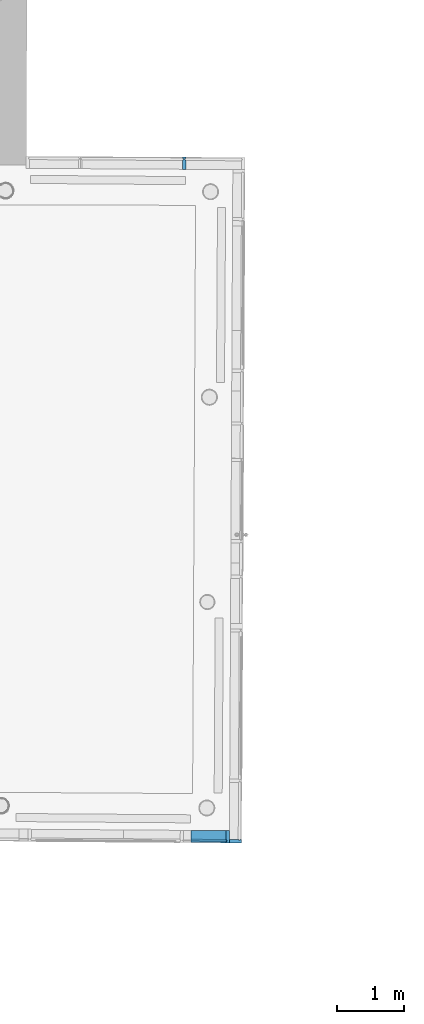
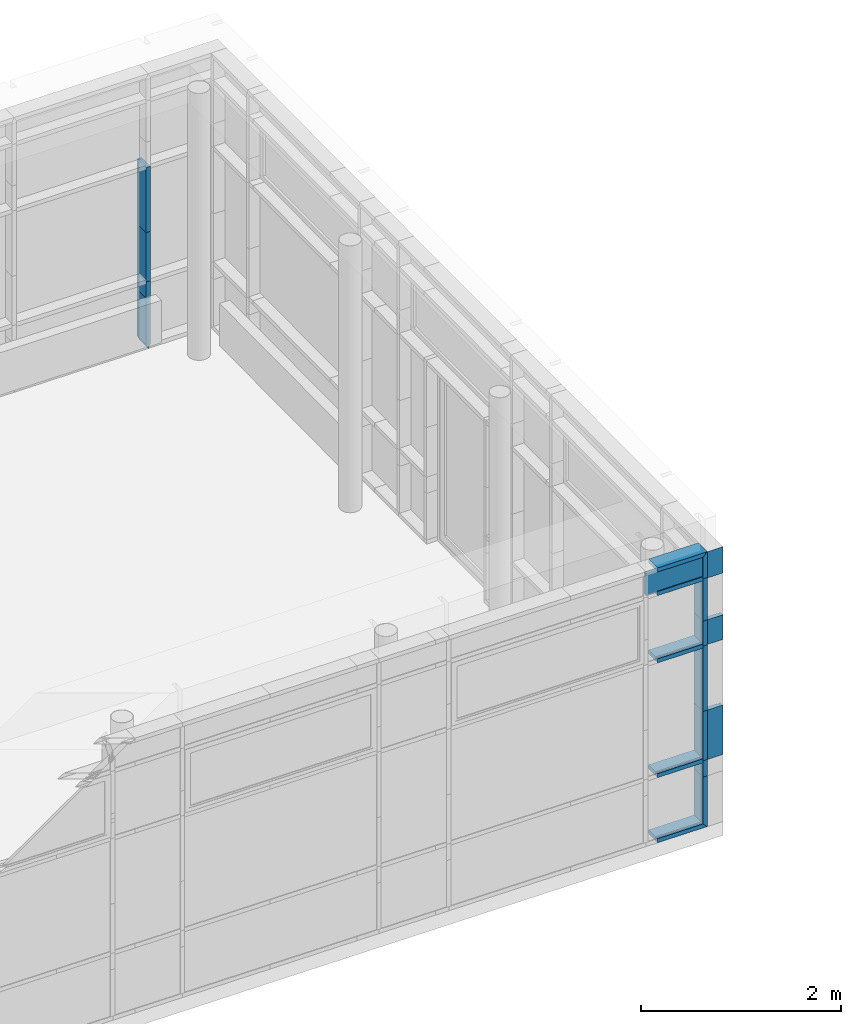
# One storey, part 177 of 196: 20 building element parts, 3 elements without a shape of their own.
"""IFC2X3 building model written with IfcOpenShell, lengths in metres."""

from ifc_helpers import new_model, entity, si_unit, converted_unit, derived_unit, money_unit, direction, frame, origin_with_axes, place, context, subcontext, project, spatial, faceted_brep, material, type_object, element, aggregate, save


model = new_model("IFC2X3")

# Units and contexts
model_context = context("Model", 3, precision=1e-05, world=origin_with_axes(), true_north=direction((0.0, 1.0)))
body_context = subcontext(model_context, "Body", "Model", "MODEL_VIEW")
ifc_project = project(units=[si_unit("LENGTHUNIT", "METRE"), si_unit("AREAUNIT", "SQUARE_METRE"), si_unit("VOLUMEUNIT", "CUBIC_METRE"), converted_unit("PLANEANGLEUNIT", "DEGREE", entity("IfcPlaneAngleMeasure", 0.0174532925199), si_unit("PLANEANGLEUNIT", "RADIAN"), dimensions=[0, 0, 0, 0, 0, 0, 0]), money_unit("EUR"), converted_unit("TIMEUNIT", "Year", entity("IfcTimeMeasure", 31556926.0), si_unit("TIMEUNIT", "SECOND"), dimensions=[0, 0, 1, 0, 0, 0, 0]), si_unit("MASSUNIT", "GRAM", prefix="KILO"), si_unit("THERMODYNAMICTEMPERATUREUNIT", "DEGREE_CELSIUS"), si_unit("LUMINOUSINTENSITYUNIT", "LUMEN"), si_unit("ENERGYUNIT", "JOULE", prefix="MEGA"), derived_unit("THERMALCONDUCTANCEUNIT", [(si_unit("POWERUNIT", "WATT"), 1), (si_unit("LENGTHUNIT", "METRE"), -1), (si_unit("THERMODYNAMICTEMPERATUREUNIT", "KELVIN"), -1)]), derived_unit("SPECIFICHEATCAPACITYUNIT", [(si_unit("ENERGYUNIT", "JOULE"), 1), (si_unit("MASSUNIT", "GRAM", prefix="KILO"), -1), (si_unit("THERMODYNAMICTEMPERATUREUNIT", "KELVIN"), -1)]), derived_unit("MASSDENSITYUNIT", [(si_unit("MASSUNIT", "GRAM", prefix="KILO"), 1), (si_unit("VOLUMEUNIT", "CUBIC_METRE"), -1)])], contexts=[model_context])

# Site, building, storey
site_placement = place(None, origin_with_axes())
site = spatial("IfcSite", under=ifc_project, at=site_placement, Name="Gelände", CompositionType="ELEMENT")
building_placement = place(site_placement, origin_with_axes())
building = spatial("IfcBuilding", under=site, at=building_placement, Name="Gebäude", CompositionType="ELEMENT")
storey_placement = place(building_placement, frame((0.0, 0.0, -3.0), z_axis=(0.0, 0.0, 1.0), x_axis=(1.0, 0.0, 0.0)))
storey = spatial("IfcBuildingStorey", under=building, at=storey_placement, Name="KELLERGESCHOSS", CompositionType="ELEMENT", Elevation=-3.0)

# Proxy, building element parts
building_element_proxy_type = type_object("IfcBuildingElementProxyType", Name="Fassadentyp", PredefinedType="NOTDEFINED")
proxy_1_placement = place(storey_placement, frame((2.54090824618, 35.7894672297, 0.610000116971), z_axis=(0.0, 0.0, 1.0), x_axis=(1.0, 0.0, 0.0)))
proxy_1 = element("IfcBuildingElementProxy", 1, at=proxy_1_placement, inside=storey, type_object=building_element_proxy_type, Name="Fassade-002")
ifc_material_1 = material(Name="45_Glas, Normalglas")
building_element_part_1_placement = place(proxy_1_placement, origin_with_axes())
building_element_part_1 = element("IfcBuildingElementPart", 2, at=building_element_part_1_placement, material=ifc_material_1, Name="45_Glas, Normalglas", context=body_context, shape_type="Brep", body=[
    faceted_brep([(6.42574014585, -0.0265612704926, 3.31499993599), (5.8892709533, -0.0226739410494, 3.31499993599), (5.88898111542, -0.0626728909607, 3.31499993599), (6.42545030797, -0.0665602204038, 3.31499993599), (6.42574014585, -0.0265612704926, 3.04649576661), (5.8892709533, -0.0226739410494, 3.04649576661), (5.76502929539, -0.021773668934, 3.04649576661), (5.76502929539, -0.021773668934, 3.31499993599), (5.7647394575, -0.0617726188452, 3.31499993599), (5.7647394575, -0.0617726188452, 3.04649576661), (5.88898111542, -0.0626728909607, 3.04649576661), (6.42545030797, -0.0665602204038, 3.04649576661)], [[[0, 1, 2, 3]], [[0, 4, 5, 6, 7, 1]], [[1, 7, 8, 2]], [[3, 2, 8, 9, 10, 11]], [[4, 0, 3, 11]], [[5, 4, 11, 10]], [[6, 5, 10, 9]], [[7, 6, 9, 8]]]),
])
ifc_material_2 = material(Name="53_Metall, Aluminium")
building_element_part_2_placement = place(proxy_1_placement, origin_with_axes())
building_element_part_2 = element("IfcBuildingElementPart", 3, at=building_element_part_2_placement, material=ifc_material_2, Name="53_Metall, Aluminium", context=body_context, shape_type="Brep", body=[
    faceted_brep([(6.4256676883, -0.0365610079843, 0.818463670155), (6.42552276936, -0.0565604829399, 0.818463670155), (6.41052316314, -0.0564517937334, 0.818463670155), (6.4103782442, -0.076451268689, 0.818463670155), (6.46037693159, -0.0768135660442, 0.818463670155), (6.46168120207, 0.103181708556, 0.818463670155), (6.41168251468, 0.103544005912, 0.818463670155), (6.41066808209, -0.0364523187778, 0.818463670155), (6.4256676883, -0.0365610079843, 0.619999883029), (6.42552276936, -0.0565604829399, 0.619999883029), (6.41052316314, -0.0564517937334, 0.619999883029), (6.4103782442, -0.076451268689, 0.619999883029), (6.46037693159, -0.0768135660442, 0.619999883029), (6.46168120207, 0.103181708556, 0.619999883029), (6.41168251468, 0.103544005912, 0.619999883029), (6.41066808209, -0.0364523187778, 0.619999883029)], [[[0, 1, 2, 3, 4, 5, 6, 7]], [[1, 0, 8, 9]], [[10, 2, 1, 9]], [[2, 10, 11, 3]], [[12, 4, 3, 11]], [[13, 5, 4, 12]], [[14, 6, 5, 13]], [[15, 7, 6, 14]], [[0, 7, 15, 8]], [[8, 15, 14, 13, 12, 11, 10, 9]]]),
])
building_element_part_3_placement = place(proxy_1_placement, origin_with_axes())
building_element_part_3 = element("IfcBuildingElementPart", 4, at=building_element_part_3_placement, material=ifc_material_2, Name="53_Metall, Aluminium", context=body_context, shape_type="Brep", body=[
    faceted_brep([(6.4256676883, -0.0365610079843, 2.21648768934), (6.42552276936, -0.0565604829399, 2.21648768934), (6.41052316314, -0.0564517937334, 2.21648768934), (6.4103782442, -0.076451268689, 2.21648768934), (6.46037693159, -0.0768135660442, 2.21648768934), (6.46168120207, 0.103181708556, 2.21648768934), (6.41168251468, 0.103544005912, 2.21648768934), (6.41066808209, -0.0364523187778, 2.21648768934), (6.4256676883, -0.0365610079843, 1.41999988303), (6.42552276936, -0.0565604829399, 1.41999988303), (6.41052316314, -0.0564517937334, 1.41999988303), (6.4103782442, -0.076451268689, 1.41999988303), (6.46037693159, -0.0768135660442, 1.41999988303), (6.46168120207, 0.103181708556, 1.41999988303), (6.41168251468, 0.103544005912, 1.41999988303), (6.41066808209, -0.0364523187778, 1.41999988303)], [[[0, 1, 2, 3, 4, 5, 6, 7]], [[1, 0, 8, 9]], [[10, 2, 1, 9]], [[2, 10, 11, 3]], [[12, 4, 3, 11]], [[13, 5, 4, 12]], [[14, 6, 5, 13]], [[15, 7, 6, 14]], [[0, 7, 15, 8]], [[8, 15, 14, 13, 12, 11, 10, 9]]]),
])
building_element_part_4_placement = place(proxy_1_placement, origin_with_axes())
building_element_part_4 = element("IfcBuildingElementPart", 5, at=building_element_part_4_placement, material=ifc_material_2, Name="53_Metall, Aluminium", context=body_context, shape_type="Brep", body=[
    faceted_brep([(6.41066808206, -0.0364523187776, 2.20648768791), (6.41066808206, -0.0364523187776, 2.19148768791), (6.4116825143, 0.103544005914, 2.19148768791), (6.4116825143, 0.103544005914, 2.24148768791), (6.41066808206, -0.0364523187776, 2.24148768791), (6.41066808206, -0.0364523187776, 2.22648768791), (6.41052316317, -0.0564517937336, 2.22648768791), (6.41052316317, -0.0564517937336, 2.24148768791), (6.41037824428, -0.0764512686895, 2.24148768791), (6.41037824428, -0.0764512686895, 2.19148768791), (6.41052316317, -0.0564517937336, 2.19148768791), (6.41052316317, -0.0564517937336, 2.20648768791), (5.88919848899, -0.0326736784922, 2.20648768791), (5.88919848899, -0.0326736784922, 2.19148768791), (5.89021292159, 0.107322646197, 2.19148768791), (5.89021292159, 0.107322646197, 2.24148768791), (5.88919848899, -0.0326736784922, 2.24148768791), (5.88919848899, -0.0326736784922, 2.22648768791), (5.88905357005, -0.0526731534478, 2.22648768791), (5.88905357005, -0.0526731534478, 2.24148768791), (5.88890865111, -0.0726726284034, 2.24148768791), (5.88890865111, -0.0726726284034, 2.19148768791), (5.88905357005, -0.0526731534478, 2.19148768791), (5.88905357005, -0.0526731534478, 2.20648768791)], [[[0, 1, 2, 3, 4, 5, 6, 7, 8, 9, 10, 11]], [[1, 0, 12, 13]], [[1, 13, 14, 2]], [[3, 2, 14, 15]], [[4, 3, 15, 16]], [[4, 16, 17, 5]], [[5, 17, 18, 6]], [[7, 6, 18, 19]], [[19, 20, 8, 7]], [[9, 8, 20, 21]], [[22, 10, 9, 21]], [[11, 10, 22, 23]], [[0, 11, 23, 12]], [[23, 22, 21, 20, 19, 18, 17, 16, 15, 14, 13, 12]]]),
])
building_element_part_5_placement = place(proxy_1_placement, origin_with_axes())
building_element_part_5 = element("IfcBuildingElementPart", 6, at=building_element_part_5_placement, material=ifc_material_2, Name="53_Metall, Aluminium", context=body_context, shape_type="Brep", body=[
    faceted_brep([(6.42566769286, -0.0365610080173, 0.0349999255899), (6.42552277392, -0.056560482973, 0.0349999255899), (6.41052316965, -0.0564517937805, 0.0499999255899), (6.41037825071, -0.0764512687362, 0.0499999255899), (6.46037693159, -0.0768135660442, -7.44101367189e-08), (6.46168120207, 0.103181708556, -7.44101367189e-08), (6.41168252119, 0.103544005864, 0.0499999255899), (6.4106680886, -0.0364523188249, 0.0499999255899), (5.8891984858, -0.0326736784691, 0.0349999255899), (5.88905356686, -0.0526731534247, 0.0349999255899), (5.88905356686, -0.0526731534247, 0.0499999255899), (5.88890864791, -0.0726726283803, 0.0499999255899), (5.88890864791, -0.0726726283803, -7.44101367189e-08), (5.89021291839, 0.10732264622, -7.44101367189e-08), (5.89021291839, 0.10732264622, 0.0499999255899), (5.8891984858, -0.0326736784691, 0.0499999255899)], [[[0, 1, 2, 3, 4, 5, 6, 7]], [[1, 0, 8, 9]], [[10, 2, 1, 9]], [[2, 10, 11, 3]], [[12, 4, 3, 11]], [[13, 5, 4, 12]], [[14, 6, 5, 13]], [[15, 7, 6, 14]], [[0, 7, 15, 8]], [[8, 15, 14, 13, 12, 11, 10, 9]]]),
])
building_element_part_6_placement = place(proxy_1_placement, origin_with_axes())
building_element_part_6 = element("IfcBuildingElementPart", 7, at=building_element_part_6_placement, material=ifc_material_2, Name="53_Metall, Aluminium", context=body_context, shape_type="Brep", body=[
    faceted_brep([(6.41066808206, -0.0364523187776, 0.808463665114), (6.41066808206, -0.0364523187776, 0.793463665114), (6.4116825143, 0.103544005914, 0.793463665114), (6.4116825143, 0.103544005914, 0.843463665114), (6.41066808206, -0.0364523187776, 0.843463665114), (6.41066808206, -0.0364523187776, 0.828463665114), (6.41052316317, -0.0564517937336, 0.828463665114), (6.41052316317, -0.0564517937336, 0.843463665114), (6.41037824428, -0.0764512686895, 0.843463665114), (6.41037824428, -0.0764512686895, 0.793463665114), (6.41052316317, -0.0564517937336, 0.793463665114), (6.41052316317, -0.0564517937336, 0.808463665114), (5.88919848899, -0.0326736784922, 0.808463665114), (5.88919848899, -0.0326736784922, 0.793463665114), (5.89021292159, 0.107322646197, 0.793463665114), (5.89021292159, 0.107322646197, 0.843463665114), (5.88919848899, -0.0326736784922, 0.843463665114), (5.88919848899, -0.0326736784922, 0.828463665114), (5.88905357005, -0.0526731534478, 0.828463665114), (5.88905357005, -0.0526731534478, 0.843463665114), (5.88890865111, -0.0726726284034, 0.843463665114), (5.88890865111, -0.0726726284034, 0.793463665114), (5.88905357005, -0.0526731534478, 0.793463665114), (5.88905357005, -0.0526731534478, 0.808463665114)], [[[0, 1, 2, 3, 4, 5, 6, 7, 8, 9, 10, 11]], [[1, 0, 12, 13]], [[1, 13, 14, 2]], [[3, 2, 14, 15]], [[4, 3, 15, 16]], [[4, 16, 17, 5]], [[5, 17, 18, 6]], [[7, 6, 18, 19]], [[19, 20, 8, 7]], [[9, 8, 20, 21]], [[22, 10, 9, 21]], [[11, 10, 22, 23]], [[0, 11, 23, 12]], [[23, 22, 21, 20, 19, 18, 17, 16, 15, 14, 13, 12]]]),
])
building_element_part_7_placement = place(proxy_1_placement, origin_with_axes())
building_element_part_7 = element("IfcBuildingElementPart", 8, at=building_element_part_7_placement, material=ifc_material_2, Name="53_Metall, Aluminium", context=body_context, shape_type="Brep", body=[
    faceted_brep([(6.4256676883, -0.0365610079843, 1.41999988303), (6.42552276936, -0.0565604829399, 1.41999988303), (6.41052316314, -0.0564517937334, 1.41999988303), (6.4103782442, -0.076451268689, 1.41999988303), (6.46037693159, -0.0768135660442, 1.41999988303), (6.46168120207, 0.103181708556, 1.41999988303), (6.41168251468, 0.103544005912, 1.41999988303), (6.41066808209, -0.0364523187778, 1.41999988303), (6.4256676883, -0.0365610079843, 0.818463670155), (6.42552276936, -0.0565604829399, 0.818463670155), (6.41052316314, -0.0564517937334, 0.818463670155), (6.4103782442, -0.076451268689, 0.818463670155), (6.46037693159, -0.0768135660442, 0.818463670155), (6.46168120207, 0.103181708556, 0.818463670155), (6.41168251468, 0.103544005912, 0.818463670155), (6.41066808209, -0.0364523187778, 0.818463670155)], [[[0, 1, 2, 3, 4, 5, 6, 7]], [[1, 0, 8, 9]], [[10, 2, 1, 9]], [[2, 10, 11, 3]], [[12, 4, 3, 11]], [[13, 5, 4, 12]], [[14, 6, 5, 13]], [[15, 7, 6, 14]], [[0, 7, 15, 8]], [[8, 15, 14, 13, 12, 11, 10, 9]]]),
])
building_element_part_8_placement = place(proxy_1_placement, origin_with_axes())
building_element_part_8 = element("IfcBuildingElementPart", 9, at=building_element_part_8_placement, material=ifc_material_2, Name="53_Metall, Aluminium", context=body_context, shape_type="Brep", body=[
    faceted_brep([(6.4256676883, -0.0365610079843, 2.51999988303), (6.42552276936, -0.0565604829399, 2.51999988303), (6.41052316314, -0.0564517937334, 2.51999988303), (6.4103782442, -0.076451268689, 2.51999988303), (6.46037693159, -0.0768135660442, 2.51999988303), (6.46168120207, 0.103181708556, 2.51999988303), (6.41168251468, 0.103544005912, 2.51999988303), (6.41066808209, -0.0364523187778, 2.51999988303), (6.4256676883, -0.0365610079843, 2.21648768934), (6.42552276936, -0.0565604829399, 2.21648768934), (6.41052316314, -0.0564517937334, 2.21648768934), (6.4103782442, -0.076451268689, 2.21648768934), (6.46037693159, -0.0768135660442, 2.21648768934), (6.46168120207, 0.103181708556, 2.21648768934), (6.41168251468, 0.103544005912, 2.21648768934), (6.41066808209, -0.0364523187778, 2.21648768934)], [[[0, 1, 2, 3, 4, 5, 6, 7]], [[1, 0, 8, 9]], [[10, 2, 1, 9]], [[2, 10, 11, 3]], [[12, 4, 3, 11]], [[13, 5, 4, 12]], [[14, 6, 5, 13]], [[15, 7, 6, 14]], [[0, 7, 15, 8]], [[8, 15, 14, 13, 12, 11, 10, 9]]]),
])
building_element_part_9_placement = place(proxy_1_placement, origin_with_axes())
building_element_part_9 = element("IfcBuildingElementPart", 10, at=building_element_part_9_placement, material=ifc_material_2, Name="53_Metall, Aluminium", context=body_context, shape_type="Brep", body=[
    faceted_brep([(6.4256676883, -0.0365610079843, 3.31499994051), (6.42552276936, -0.0565604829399, 3.31499994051), (6.41052316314, -0.0564517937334, 3.29999994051), (6.4103782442, -0.076451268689, 3.29999994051), (6.46037693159, -0.0768135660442, 3.34999994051), (6.46168120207, 0.103181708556, 3.34999994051), (6.41168251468, 0.103544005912, 3.29999994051), (6.41066808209, -0.0364523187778, 3.29999994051), (6.4256676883, -0.0365610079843, 3.03649576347), (6.42552276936, -0.0565604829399, 3.03649576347), (6.41052316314, -0.0564517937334, 3.03649576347), (6.4103782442, -0.076451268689, 3.03649576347), (6.46037693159, -0.0768135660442, 3.03649576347), (6.46168120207, 0.103181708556, 3.03649576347), (6.41168251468, 0.103544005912, 3.03649576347), (6.41066808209, -0.0364523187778, 3.03649576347)], [[[0, 1, 2, 3, 4, 5, 6, 7]], [[1, 0, 8, 9]], [[10, 2, 1, 9]], [[2, 10, 11, 3]], [[12, 4, 3, 11]], [[13, 5, 4, 12]], [[14, 6, 5, 13]], [[15, 7, 6, 14]], [[0, 7, 15, 8]], [[8, 15, 14, 13, 12, 11, 10, 9]]]),
])
building_element_part_10_placement = place(proxy_1_placement, origin_with_axes())
building_element_part_10 = element("IfcBuildingElementPart", 11, at=building_element_part_10_placement, material=ifc_material_2, Name="53_Metall, Aluminium", context=body_context, shape_type="Brep", body=[
    faceted_brep([(6.4256676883, -0.0365610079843, 3.31499994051), (6.41066808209, -0.0364523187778, 3.29999994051), (6.41168251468, 0.103544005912, 3.29999994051), (6.46168120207, 0.103181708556, 3.34999994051), (6.46037693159, -0.0768135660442, 3.34999994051), (6.4103782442, -0.076451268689, 3.29999994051), (6.41052316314, -0.0564517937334, 3.29999994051), (6.42552276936, -0.0565604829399, 3.31499994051), (5.88919848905, -0.0326736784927, 3.31499994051), (5.88919848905, -0.0326736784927, 3.29999994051), (5.89021292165, 0.107322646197, 3.29999994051), (5.89021292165, 0.107322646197, 3.34999994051), (5.88890865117, -0.0726726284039, 3.34999994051), (5.88890865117, -0.0726726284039, 3.29999994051), (5.88905357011, -0.0526731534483, 3.29999994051), (5.88905357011, -0.0526731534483, 3.31499994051)], [[[0, 1, 2, 3, 4, 5, 6, 7]], [[0, 8, 9, 1]], [[9, 10, 2, 1]], [[10, 11, 3, 2]], [[11, 12, 4, 3]], [[12, 13, 5, 4]], [[6, 5, 13, 14]], [[14, 15, 7, 6]], [[7, 15, 8, 0]], [[8, 15, 14, 13, 12, 11, 10, 9]]]),
])
building_element_part_11_placement = place(proxy_1_placement, origin_with_axes())
building_element_part_11 = element("IfcBuildingElementPart", 12, at=building_element_part_11_placement, material=ifc_material_2, Name="53_Metall, Aluminium", context=body_context, shape_type="Brep", body=[
    faceted_brep([(6.4256676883, -0.0365610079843, 0.619999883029), (6.42552276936, -0.0565604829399, 0.619999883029), (6.41052316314, -0.0564517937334, 0.619999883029), (6.4103782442, -0.076451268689, 0.619999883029), (6.46037693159, -0.0768135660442, 0.619999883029), (6.46168120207, 0.103181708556, 0.619999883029), (6.41168251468, 0.103544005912, 0.619999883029), (6.41066808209, -0.0364523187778, 0.619999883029), (6.4256676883, -0.0365610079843, 0.0349999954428), (6.42552276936, -0.0565604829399, 0.0349999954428), (6.41052316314, -0.0564517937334, 0.0499999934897), (6.4103782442, -0.076451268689, 0.0499999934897), (6.46037693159, -0.0768135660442, 0.0), (6.46168120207, 0.103181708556, 0.0), (6.41168251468, 0.103544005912, 0.0499999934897), (6.41066808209, -0.0364523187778, 0.0499999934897)], [[[0, 1, 2, 3, 4, 5, 6, 7]], [[1, 0, 8, 9]], [[10, 2, 1, 9]], [[2, 10, 11, 3]], [[4, 3, 11, 12]], [[5, 4, 12, 13]], [[6, 5, 13, 14]], [[15, 7, 6, 14]], [[0, 7, 15, 8]], [[8, 15, 14, 13, 12, 11, 10, 9]]]),
])
building_element_part_12_placement = place(proxy_1_placement, origin_with_axes())
building_element_part_12 = element("IfcBuildingElementPart", 13, at=building_element_part_12_placement, material=ifc_material_2, Name="53_Metall, Aluminium", context=body_context, shape_type="Brep", body=[
    faceted_brep([(6.41066808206, -0.0364523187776, 3.02649576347), (6.41066808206, -0.0364523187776, 3.01149576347), (6.4116825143, 0.103544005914, 3.01149576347), (6.4116825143, 0.103544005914, 3.06149576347), (6.41066808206, -0.0364523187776, 3.06149576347), (6.41066808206, -0.0364523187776, 3.04649576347), (6.41052316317, -0.0564517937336, 3.04649576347), (6.41052316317, -0.0564517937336, 3.06149576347), (6.41037824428, -0.0764512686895, 3.06149576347), (6.41037824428, -0.0764512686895, 3.01149576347), (6.41052316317, -0.0564517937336, 3.01149576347), (6.41052316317, -0.0564517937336, 3.02649576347), (5.88919848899, -0.0326736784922, 3.02649576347), (5.88919848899, -0.0326736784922, 3.01149576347), (5.89021292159, 0.107322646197, 3.01149576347), (5.89021292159, 0.107322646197, 3.06149576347), (5.88919848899, -0.0326736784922, 3.06149576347), (5.88919848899, -0.0326736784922, 3.04649576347), (5.88905357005, -0.0526731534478, 3.04649576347), (5.88905357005, -0.0526731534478, 3.06149576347), (5.88890865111, -0.0726726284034, 3.06149576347), (5.88890865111, -0.0726726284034, 3.01149576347), (5.88905357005, -0.0526731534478, 3.01149576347), (5.88905357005, -0.0526731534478, 3.02649576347)], [[[0, 1, 2, 3, 4, 5, 6, 7, 8, 9, 10, 11]], [[1, 0, 12, 13]], [[1, 13, 14, 2]], [[3, 2, 14, 15]], [[4, 3, 15, 16]], [[4, 16, 17, 5]], [[5, 17, 18, 6]], [[7, 6, 18, 19]], [[19, 20, 8, 7]], [[9, 8, 20, 21]], [[22, 10, 9, 21]], [[11, 10, 22, 23]], [[0, 11, 23, 12]], [[23, 22, 21, 20, 19, 18, 17, 16, 15, 14, 13, 12]]]),
])
building_element_part_13_placement = place(proxy_1_placement, origin_with_axes())
building_element_part_13 = element("IfcBuildingElementPart", 14, at=building_element_part_13_placement, material=ifc_material_2, Name="53_Metall, Aluminium", context=body_context, shape_type="Brep", body=[
    faceted_brep([(6.4256676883, -0.0365610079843, 3.03649576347), (6.42552276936, -0.0565604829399, 3.03649576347), (6.41052316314, -0.0564517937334, 3.03649576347), (6.4103782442, -0.076451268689, 3.03649576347), (6.46037693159, -0.0768135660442, 3.03649576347), (6.46168120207, 0.103181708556, 3.03649576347), (6.41168251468, 0.103544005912, 3.03649576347), (6.41066808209, -0.0364523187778, 3.03649576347), (6.4256676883, -0.0365610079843, 2.51999988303), (6.42552276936, -0.0565604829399, 2.51999988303), (6.41052316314, -0.0564517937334, 2.51999988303), (6.4103782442, -0.076451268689, 2.51999988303), (6.46037693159, -0.0768135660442, 2.51999988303), (6.46168120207, 0.103181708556, 2.51999988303), (6.41168251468, 0.103544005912, 2.51999988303), (6.41066808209, -0.0364523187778, 2.51999988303)], [[[0, 1, 2, 3, 4, 5, 6, 7]], [[1, 0, 8, 9]], [[10, 2, 1, 9]], [[2, 10, 11, 3]], [[12, 4, 3, 11]], [[13, 5, 4, 12]], [[14, 6, 5, 13]], [[15, 7, 6, 14]], [[0, 7, 15, 8]], [[8, 15, 14, 13, 12, 11, 10, 9]]]),
])
aggregate(proxy_1, [building_element_part_1, building_element_part_2, building_element_part_3, building_element_part_4, building_element_part_5, building_element_part_6, building_element_part_7, building_element_part_8, building_element_part_9, building_element_part_10, building_element_part_11, building_element_part_12, building_element_part_13])

proxy_2_placement = place(storey_placement, frame((9.16160365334, 37.7476945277, 0.610000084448), z_axis=(0.0, 0.0, 1.0), x_axis=(1.0, 0.0, 0.0)))
proxy_2 = element("IfcBuildingElementProxy", 15, at=proxy_2_placement, inside=storey, type_object=building_element_proxy_type, Name="Fassade-002")
building_element_part_14_placement = place(proxy_2_placement, origin_with_axes())
building_element_part_14 = element("IfcBuildingElementPart", 16, at=building_element_part_14_placement, material=ifc_material_2, Name="53_Metall, Aluminium", context=body_context, shape_type="Brep", body=[
    faceted_brep([(-0.020140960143, -2.00048943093, 3.31499994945), (-0.0200649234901, -1.98548962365, 3.29999994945), (-0.160063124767, -1.98477994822, 3.29999994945), (-0.160316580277, -2.03477930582, 3.34999994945), (0.0196811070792, -2.03569174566, 3.34999994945), (0.019934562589, -1.98569238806, 3.29999994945), (-6.51804505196e-05, -1.98559100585, 3.29999994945), (-0.000141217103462, -2.00059081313, 3.31499994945), (-0.020140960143, -2.00048943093, 3.02949640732), (-0.0200649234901, -1.98548962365, 3.02949640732), (-0.160063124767, -1.98477994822, 3.02949640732), (-0.160316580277, -2.03477930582, 3.02949640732), (0.0196811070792, -2.03569174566, 3.02949640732), (0.019934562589, -1.98569238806, 3.02949640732), (-6.51804505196e-05, -1.98559100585, 3.02949640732), (-0.000141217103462, -2.00059081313, 3.02949640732)], [[[0, 1, 2, 3, 4, 5, 6, 7]], [[0, 8, 9, 1]], [[9, 10, 2, 1]], [[10, 11, 3, 2]], [[11, 12, 4, 3]], [[12, 13, 5, 4]], [[6, 5, 13, 14]], [[14, 15, 7, 6]], [[7, 15, 8, 0]], [[8, 15, 14, 13, 12, 11, 10, 9]]]),
])
building_element_part_15_placement = place(proxy_2_placement, origin_with_axes())
building_element_part_15 = element("IfcBuildingElementPart", 17, at=building_element_part_15_placement, material=ifc_material_2, Name="53_Metall, Aluminium", context=body_context, shape_type="Brep", body=[
    faceted_brep([(-0.020140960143, -2.00048943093, 2.51999991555), (-0.0200649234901, -1.98548962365, 2.51999991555), (-0.160063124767, -1.98477994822, 2.51999991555), (-0.160316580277, -2.03477930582, 2.51999991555), (0.0196811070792, -2.03569174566, 2.51999991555), (0.019934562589, -1.98569238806, 2.51999991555), (-6.51804505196e-05, -1.98559100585, 2.51999991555), (-0.000141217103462, -2.00059081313, 2.51999991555), (-0.020140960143, -2.00048943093, 2.21916309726), (-0.0200649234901, -1.98548962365, 2.21916309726), (-0.160063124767, -1.98477994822, 2.21916309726), (-0.160316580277, -2.03477930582, 2.21916309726), (0.0196811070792, -2.03569174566, 2.21916309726), (0.019934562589, -1.98569238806, 2.21916309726), (-6.51804505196e-05, -1.98559100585, 2.21916309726), (-0.000141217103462, -2.00059081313, 2.21916309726)], [[[0, 1, 2, 3, 4, 5, 6, 7]], [[0, 8, 9, 1]], [[9, 10, 2, 1]], [[10, 11, 3, 2]], [[11, 12, 4, 3]], [[12, 13, 5, 4]], [[6, 5, 13, 14]], [[14, 15, 7, 6]], [[7, 15, 8, 0]], [[8, 15, 14, 13, 12, 11, 10, 9]]]),
])
building_element_part_16_placement = place(proxy_2_placement, origin_with_axes())
building_element_part_16 = element("IfcBuildingElementPart", 18, at=building_element_part_16_placement, material=ifc_material_2, Name="53_Metall, Aluminium", context=body_context, shape_type="Brep", body=[
    faceted_brep([(-0.020140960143, -2.00048943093, 1.41999991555), (-0.0200649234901, -1.98548962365, 1.41999991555), (-0.160063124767, -1.98477994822, 1.41999991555), (-0.160316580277, -2.03477930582, 1.41999991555), (0.0196811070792, -2.03569174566, 1.41999991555), (0.019934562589, -1.98569238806, 1.41999991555), (-6.51804505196e-05, -1.98559100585, 1.41999991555), (-0.000141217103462, -2.00059081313, 1.41999991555), (-0.020140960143, -2.00048943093, 0.817169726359), (-0.0200649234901, -1.98548962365, 0.817169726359), (-0.160063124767, -1.98477994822, 0.817169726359), (-0.160316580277, -2.03477930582, 0.817169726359), (0.0196811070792, -2.03569174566, 0.817169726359), (0.019934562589, -1.98569238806, 0.817169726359), (-6.51804505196e-05, -1.98559100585, 0.817169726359), (-0.000141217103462, -2.00059081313, 0.817169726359)], [[[0, 1, 2, 3, 4, 5, 6, 7]], [[0, 8, 9, 1]], [[9, 10, 2, 1]], [[10, 11, 3, 2]], [[11, 12, 4, 3]], [[12, 13, 5, 4]], [[6, 5, 13, 14]], [[14, 15, 7, 6]], [[7, 15, 8, 0]], [[8, 15, 14, 13, 12, 11, 10, 9]]]),
])
aggregate(proxy_2, [building_element_part_14, building_element_part_15, building_element_part_16])

proxy_3_placement = place(storey_placement, frame((8.78139895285, 45.8579301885, 0.610000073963), z_axis=(0.0, 0.0, 1.0), x_axis=(1.0, 0.0, 0.0)))
proxy_3 = element("IfcBuildingElementProxy", 19, at=proxy_3_placement, inside=storey, type_object=building_element_proxy_type, Name="Fassade-002")
building_element_part_17_placement = place(proxy_3_placement, origin_with_axes())
building_element_part_17 = element("IfcBuildingElementPart", 20, at=building_element_part_17_placement, material=ifc_material_2, Name="53_Metall, Aluminium", context=body_context, shape_type="Brep", body=[
    faceted_brep([(-0.461445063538, -0.00740107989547, 2.21362976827), (-0.476444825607, -0.00731659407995, 2.21362976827), (-0.477233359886, -0.147314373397, 2.21362976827), (-0.427234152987, -0.147595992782, 2.21362976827), (-0.426445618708, -0.007598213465, 2.21362976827), (-0.441445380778, -0.00751372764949, 2.21362976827), (-0.441332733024, 0.0124859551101, 2.21362976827), (-0.426332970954, 0.0124014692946, 2.21362976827), (-0.4262203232, 0.0324011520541, 2.21362976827), (-0.476219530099, 0.0326827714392, 2.21362976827), (-0.476332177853, 0.0126830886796, 2.21362976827), (-0.461332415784, 0.0125986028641, 2.21362976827), (-0.461445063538, -0.00740107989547, 1.41999992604), (-0.476444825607, -0.00731659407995, 1.41999992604), (-0.477233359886, -0.147314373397, 1.41999992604), (-0.427234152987, -0.147595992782, 1.41999992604), (-0.426445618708, -0.007598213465, 1.41999992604), (-0.441445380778, -0.00751372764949, 1.41999992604), (-0.441332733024, 0.0124859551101, 1.41999992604), (-0.426332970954, 0.0124014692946, 1.41999992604), (-0.4262203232, 0.0324011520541, 1.41999992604), (-0.476219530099, 0.0326827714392, 1.41999992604), (-0.476332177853, 0.0126830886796, 1.41999992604), (-0.461332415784, 0.0125986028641, 1.41999992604)], [[[0, 1, 2, 3, 4, 5, 6, 7, 8, 9, 10, 11]], [[1, 0, 12, 13]], [[1, 13, 14, 2]], [[3, 2, 14, 15]], [[4, 3, 15, 16]], [[4, 16, 17, 5]], [[5, 17, 18, 6]], [[7, 6, 18, 19]], [[19, 20, 8, 7]], [[9, 8, 20, 21]], [[22, 10, 9, 21]], [[11, 10, 22, 23]], [[0, 11, 23, 12]], [[23, 22, 21, 20, 19, 18, 17, 16, 15, 14, 13, 12]]]),
])
building_element_part_18_placement = place(proxy_3_placement, origin_with_axes())
building_element_part_18 = element("IfcBuildingElementPart", 21, at=building_element_part_18_placement, material=ifc_material_2, Name="53_Metall, Aluminium", context=body_context, shape_type="Brep", body=[
    faceted_brep([(-0.461445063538, -0.00740107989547, 1.41999992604), (-0.476444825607, -0.00731659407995, 1.41999992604), (-0.477233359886, -0.147314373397, 1.41999992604), (-0.427234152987, -0.147595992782, 1.41999992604), (-0.426445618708, -0.007598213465, 1.41999992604), (-0.441445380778, -0.00751372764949, 1.41999992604), (-0.441332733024, 0.0124859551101, 1.41999992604), (-0.426332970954, 0.0124014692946, 1.41999992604), (-0.4262203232, 0.0324011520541, 1.41999992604), (-0.476219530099, 0.0326827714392, 1.41999992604), (-0.476332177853, 0.0126830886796, 1.41999992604), (-0.461332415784, 0.0125986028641, 1.41999992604), (-0.461445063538, -0.00740107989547, 0.818683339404), (-0.476444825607, -0.00731659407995, 0.818683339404), (-0.477233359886, -0.147314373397, 0.818683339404), (-0.427234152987, -0.147595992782, 0.818683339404), (-0.426445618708, -0.007598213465, 0.818683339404), (-0.441445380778, -0.00751372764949, 0.818683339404), (-0.441332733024, 0.0124859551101, 0.818683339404), (-0.426332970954, 0.0124014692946, 0.818683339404), (-0.4262203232, 0.0324011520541, 0.818683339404), (-0.476219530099, 0.0326827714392, 0.818683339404), (-0.476332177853, 0.0126830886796, 0.818683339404), (-0.461332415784, 0.0125986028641, 0.818683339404)], [[[0, 1, 2, 3, 4, 5, 6, 7, 8, 9, 10, 11]], [[1, 0, 12, 13]], [[1, 13, 14, 2]], [[3, 2, 14, 15]], [[4, 3, 15, 16]], [[4, 16, 17, 5]], [[5, 17, 18, 6]], [[7, 6, 18, 19]], [[19, 20, 8, 7]], [[9, 8, 20, 21]], [[22, 10, 9, 21]], [[11, 10, 22, 23]], [[0, 11, 23, 12]], [[23, 22, 21, 20, 19, 18, 17, 16, 15, 14, 13, 12]]]),
])
building_element_part_19_placement = place(proxy_3_placement, origin_with_axes())
building_element_part_19 = element("IfcBuildingElementPart", 22, at=building_element_part_19_placement, material=ifc_material_2, Name="53_Metall, Aluminium", context=body_context, shape_type="Brep", body=[
    faceted_brep([(-0.461445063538, -0.00740107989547, 0.818683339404), (-0.476444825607, -0.00731659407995, 0.818683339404), (-0.477233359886, -0.147314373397, 0.818683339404), (-0.427234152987, -0.147595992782, 0.818683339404), (-0.426445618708, -0.007598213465, 0.818683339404), (-0.441445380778, -0.00751372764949, 0.818683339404), (-0.441332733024, 0.0124859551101, 0.818683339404), (-0.426332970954, 0.0124014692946, 0.818683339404), (-0.4262203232, 0.0324011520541, 0.818683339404), (-0.476219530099, 0.0326827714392, 0.818683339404), (-0.476332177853, 0.0126830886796, 0.818683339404), (-0.461332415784, 0.0125986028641, 0.818683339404), (-0.461445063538, -0.00740107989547, 0.619999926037), (-0.476444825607, -0.00731659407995, 0.619999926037), (-0.477233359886, -0.147314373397, 0.619999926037), (-0.427234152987, -0.147595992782, 0.619999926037), (-0.426445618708, -0.007598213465, 0.619999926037), (-0.441445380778, -0.00751372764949, 0.619999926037), (-0.441332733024, 0.0124859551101, 0.619999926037), (-0.426332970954, 0.0124014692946, 0.619999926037), (-0.4262203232, 0.0324011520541, 0.619999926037), (-0.476219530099, 0.0326827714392, 0.619999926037), (-0.476332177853, 0.0126830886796, 0.619999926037), (-0.461332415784, 0.0125986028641, 0.619999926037)], [[[0, 1, 2, 3, 4, 5, 6, 7, 8, 9, 10, 11]], [[1, 0, 12, 13]], [[1, 13, 14, 2]], [[3, 2, 14, 15]], [[4, 3, 15, 16]], [[4, 16, 17, 5]], [[5, 17, 18, 6]], [[7, 6, 18, 19]], [[19, 20, 8, 7]], [[9, 8, 20, 21]], [[22, 10, 9, 21]], [[11, 10, 22, 23]], [[0, 11, 23, 12]], [[23, 22, 21, 20, 19, 18, 17, 16, 15, 14, 13, 12]]]),
])
building_element_part_20_placement = place(proxy_3_placement, origin_with_axes())
building_element_part_20 = element("IfcBuildingElementPart", 23, at=building_element_part_20_placement, material=ifc_material_2, Name="53_Metall, Aluminium", context=body_context, shape_type="Brep", body=[
    faceted_brep([(-0.461445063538, -0.00740107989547, 0.619999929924), (-0.476444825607, -0.00731659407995, 0.619999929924), (-0.477233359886, -0.147314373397, 0.619999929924), (-0.427234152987, -0.147595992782, 0.619999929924), (-0.426445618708, -0.007598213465, 0.619999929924), (-0.441445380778, -0.00751372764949, 0.619999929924), (-0.441332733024, 0.0124859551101, 0.619999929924), (-0.426332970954, 0.0124014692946, 0.619999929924), (-0.4262203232, 0.0324011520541, 0.619999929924), (-0.476219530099, 0.0326827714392, 0.619999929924), (-0.476332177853, 0.0126830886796, 0.619999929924), (-0.461332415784, 0.0125986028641, 0.619999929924), (-0.461445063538, -0.00740107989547, 0.02), (-0.476444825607, -0.00731659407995, 0.05), (-0.477233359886, -0.147314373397, 0.05), (-0.452233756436, -0.147455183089, 0.0), (-0.427234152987, -0.147595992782, 0.05), (-0.426445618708, -0.007598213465, 0.05), (-0.441445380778, -0.00751372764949, 0.02), (-0.441332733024, 0.0124859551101, 0.02), (-0.426332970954, 0.0124014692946, 0.05), (-0.4262203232, 0.0324011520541, 0.05), (-0.45121992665, 0.0325419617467, 0.0), (-0.476219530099, 0.0326827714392, 0.05), (-0.476332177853, 0.0126830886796, 0.05), (-0.461332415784, 0.0125986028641, 0.02)], [[[0, 1, 2, 3, 4, 5, 6, 7, 8, 9, 10, 11]], [[1, 0, 12, 13]], [[1, 13, 14, 2]], [[14, 15, 16, 3, 2]], [[4, 3, 16, 17]], [[4, 17, 18, 5]], [[5, 18, 19, 6]], [[7, 6, 19, 20]], [[20, 21, 8, 7]], [[21, 22, 23, 9, 8]], [[24, 10, 9, 23]], [[11, 10, 24, 25]], [[0, 11, 25, 12]], [[25, 24, 23, 22, 15, 14, 13, 12]], [[21, 20, 19, 18, 17, 16, 15, 22]]]),
])
aggregate(proxy_3, [building_element_part_17, building_element_part_18, building_element_part_19, building_element_part_20])

save(model, "model.ifc")
